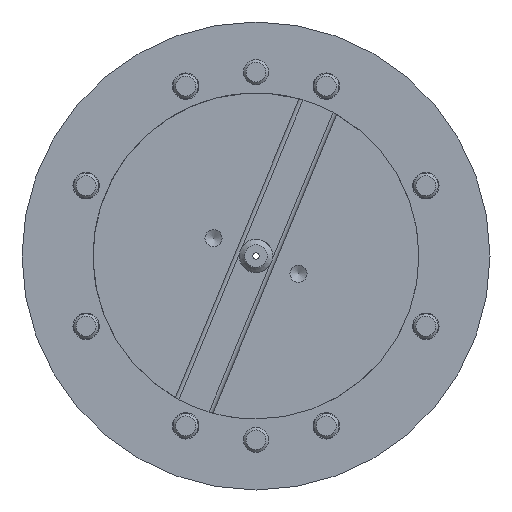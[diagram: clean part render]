
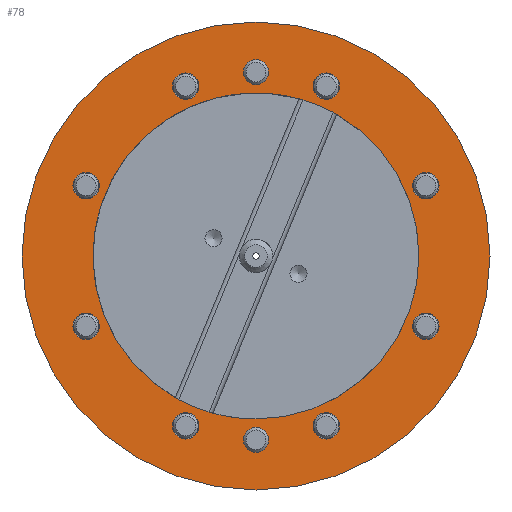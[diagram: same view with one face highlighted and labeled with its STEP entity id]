
A CAD part, front view. The second image highlights one B-rep face of the part: STEP entity #78.
In plain terms, the highlighted planar face has unit normal (0, -1, 0).
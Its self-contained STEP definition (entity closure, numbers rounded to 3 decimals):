
#78 = ADVANCED_FACE( '', ( #264, #265, #266, #267, #268, #269, #270, #271, #272, #273, #274, #275 ), #276, .T. );
#264 = FACE_OUTER_BOUND( '', #740, .T. );
#265 = FACE_BOUND( '', #741, .T. );
#266 = FACE_BOUND( '', #742, .T. );
#267 = FACE_BOUND( '', #743, .T. );
#268 = FACE_BOUND( '', #744, .T. );
#269 = FACE_BOUND( '', #745, .T. );
#270 = FACE_BOUND( '', #746, .T. );
#271 = FACE_BOUND( '', #747, .T. );
#272 = FACE_BOUND( '', #748, .T. );
#273 = FACE_BOUND( '', #749, .T. );
#274 = FACE_BOUND( '', #750, .T. );
#275 = FACE_BOUND( '', #751, .T. );
#276 = PLANE( '', #752 );
#740 = EDGE_LOOP( '', ( #1230 ) );
#741 = EDGE_LOOP( '', ( #1231 ) );
#742 = EDGE_LOOP( '', ( #1232 ) );
#743 = EDGE_LOOP( '', ( #1233 ) );
#744 = EDGE_LOOP( '', ( #1234 ) );
#745 = EDGE_LOOP( '', ( #1235 ) );
#746 = EDGE_LOOP( '', ( #1236 ) );
#747 = EDGE_LOOP( '', ( #1237 ) );
#748 = EDGE_LOOP( '', ( #1238 ) );
#749 = EDGE_LOOP( '', ( #1239 ) );
#750 = EDGE_LOOP( '', ( #1240 ) );
#751 = EDGE_LOOP( '', ( #1241 ) );
#752 = AXIS2_PLACEMENT_3D( '', #1242, #1243, #1244 );
#1230 = ORIENTED_EDGE( '', *, *, #2363, .T. );
#1231 = ORIENTED_EDGE( '', *, *, #2364, .F. );
#1232 = ORIENTED_EDGE( '', *, *, #2365, .F. );
#1233 = ORIENTED_EDGE( '', *, *, #2366, .F. );
#1234 = ORIENTED_EDGE( '', *, *, #2367, .F. );
#1235 = ORIENTED_EDGE( '', *, *, #2368, .F. );
#1236 = ORIENTED_EDGE( '', *, *, #2369, .F. );
#1237 = ORIENTED_EDGE( '', *, *, #2370, .F. );
#1238 = ORIENTED_EDGE( '', *, *, #2371, .F. );
#1239 = ORIENTED_EDGE( '', *, *, #2372, .T. );
#1240 = ORIENTED_EDGE( '', *, *, #2373, .T. );
#1241 = ORIENTED_EDGE( '', *, *, #2374, .F. );
#1242 = CARTESIAN_POINT( '', ( 39., -10., 0. ) );
#1243 = DIRECTION( '', ( 0., -1., 0. ) );
#1244 = DIRECTION( '', ( 0., 0., -1. ) );
#2363 = EDGE_CURVE( '', #2676, #2676, #2677, .T. );
#2364 = EDGE_CURVE( '', #2678, #2678, #2679, .T. );
#2365 = EDGE_CURVE( '', #2680, #2680, #2681, .T. );
#2366 = EDGE_CURVE( '', #2682, #2682, #2683, .T. );
#2367 = EDGE_CURVE( '', #2684, #2684, #2685, .T. );
#2368 = EDGE_CURVE( '', #2686, #2686, #2687, .T. );
#2369 = EDGE_CURVE( '', #2688, #2688, #2689, .T. );
#2370 = EDGE_CURVE( '', #2690, #2690, #2691, .T. );
#2371 = EDGE_CURVE( '', #2692, #2692, #2693, .T. );
#2372 = EDGE_CURVE( '', #2694, #2694, #2695, .F. );
#2373 = EDGE_CURVE( '', #2696, #2696, #2697, .F. );
#2374 = EDGE_CURVE( '', #2698, #2698, #2699, .T. );
#2676 = VERTEX_POINT( '', #3235 );
#2677 = CIRCLE( '', #3236, 56. );
#2678 = VERTEX_POINT( '', #3237 );
#2679 = CIRCLE( '', #3238, 3.15 );
#2680 = VERTEX_POINT( '', #3239 );
#2681 = CIRCLE( '', #3240, 3.15 );
#2682 = VERTEX_POINT( '', #3241 );
#2683 = CIRCLE( '', #3242, 3.15 );
#2684 = VERTEX_POINT( '', #3243 );
#2685 = CIRCLE( '', #3244, 3.15 );
#2686 = VERTEX_POINT( '', #3245 );
#2687 = CIRCLE( '', #3246, 3.15 );
#2688 = VERTEX_POINT( '', #3247 );
#2689 = CIRCLE( '', #3248, 3.15 );
#2690 = VERTEX_POINT( '', #3249 );
#2691 = CIRCLE( '', #3250, 3.15 );
#2692 = VERTEX_POINT( '', #3251 );
#2693 = CIRCLE( '', #3252, 3.15 );
#2694 = VERTEX_POINT( '', #3253 );
#2695 = CIRCLE( '', #3254, 3. );
#2696 = VERTEX_POINT( '', #3255 );
#2697 = CIRCLE( '', #3256, 3. );
#2698 = VERTEX_POINT( '', #3257 );
#2699 = CIRCLE( '', #3258, 39. );
#3235 = CARTESIAN_POINT( '', ( 0., -10., -56. ) );
#3236 = AXIS2_PLACEMENT_3D( '', #3958, #3959, #3960 );
#3237 = CARTESIAN_POINT( '', ( -16.838, -10., -43.801 ) );
#3238 = AXIS2_PLACEMENT_3D( '', #3961, #3962, #3963 );
#3239 = CARTESIAN_POINT( '', ( 40.651, -10., -19.988 ) );
#3240 = AXIS2_PLACEMENT_3D( '', #3964, #3965, #3966 );
#3241 = CARTESIAN_POINT( '', ( -16.838, -10., 37.501 ) );
#3242 = AXIS2_PLACEMENT_3D( '', #3967, #3968, #3969 );
#3243 = CARTESIAN_POINT( '', ( 16.838, -10., 37.501 ) );
#3244 = AXIS2_PLACEMENT_3D( '', #3970, #3971, #3972 );
#3245 = CARTESIAN_POINT( '', ( -40.651, -10., 13.688 ) );
#3246 = AXIS2_PLACEMENT_3D( '', #3973, #3974, #3975 );
#3247 = CARTESIAN_POINT( '', ( -40.651, -10., -19.988 ) );
#3248 = AXIS2_PLACEMENT_3D( '', #3976, #3977, #3978 );
#3249 = CARTESIAN_POINT( '', ( 40.651, -10., 13.688 ) );
#3250 = AXIS2_PLACEMENT_3D( '', #3979, #3980, #3981 );
#3251 = CARTESIAN_POINT( '', ( 16.838, -10., -43.801 ) );
#3252 = AXIS2_PLACEMENT_3D( '', #3982, #3983, #3984 );
#3253 = CARTESIAN_POINT( '', ( 0., -10., 41. ) );
#3254 = AXIS2_PLACEMENT_3D( '', #3985, #3986, #3987 );
#3255 = CARTESIAN_POINT( '', ( 0., -10., -47. ) );
#3256 = AXIS2_PLACEMENT_3D( '', #3988, #3989, #3990 );
#3257 = CARTESIAN_POINT( '', ( 0., -10., -39. ) );
#3258 = AXIS2_PLACEMENT_3D( '', #3991, #3992, #3993 );
#3958 = CARTESIAN_POINT( '', ( 0., -10., 0. ) );
#3959 = DIRECTION( '', ( 0., -1., 0. ) );
#3960 = DIRECTION( '', ( 0., 0., -1. ) );
#3961 = CARTESIAN_POINT( '', ( -16.838, -10., -40.651 ) );
#3962 = DIRECTION( '', ( 0., -1., 0. ) );
#3963 = DIRECTION( '', ( 0., 0., -1. ) );
#3964 = CARTESIAN_POINT( '', ( 40.651, -10., -16.838 ) );
#3965 = DIRECTION( '', ( 0., -1., 0. ) );
#3966 = DIRECTION( '', ( 0., 0., -1. ) );
#3967 = CARTESIAN_POINT( '', ( -16.838, -10., 40.651 ) );
#3968 = DIRECTION( '', ( 0., -1., 0. ) );
#3969 = DIRECTION( '', ( 0., 0., -1. ) );
#3970 = CARTESIAN_POINT( '', ( 16.838, -10., 40.651 ) );
#3971 = DIRECTION( '', ( 0., -1., 0. ) );
#3972 = DIRECTION( '', ( 0., 0., -1. ) );
#3973 = CARTESIAN_POINT( '', ( -40.651, -10., 16.838 ) );
#3974 = DIRECTION( '', ( 0., -1., 0. ) );
#3975 = DIRECTION( '', ( 0., 0., -1. ) );
#3976 = CARTESIAN_POINT( '', ( -40.651, -10., -16.838 ) );
#3977 = DIRECTION( '', ( 0., -1., 0. ) );
#3978 = DIRECTION( '', ( 0., 0., -1. ) );
#3979 = CARTESIAN_POINT( '', ( 40.651, -10., 16.838 ) );
#3980 = DIRECTION( '', ( 0., -1., 0. ) );
#3981 = DIRECTION( '', ( 0., 0., -1. ) );
#3982 = CARTESIAN_POINT( '', ( 16.838, -10., -40.651 ) );
#3983 = DIRECTION( '', ( 0., -1., 0. ) );
#3984 = DIRECTION( '', ( 0., 0., -1. ) );
#3985 = CARTESIAN_POINT( '', ( 0., -10., 44. ) );
#3986 = DIRECTION( '', ( 0., -1., 0. ) );
#3987 = DIRECTION( '', ( 0., 0., -1. ) );
#3988 = CARTESIAN_POINT( '', ( 0., -10., -44. ) );
#3989 = DIRECTION( '', ( 0., -1., 0. ) );
#3990 = DIRECTION( '', ( 0., 0., -1. ) );
#3991 = CARTESIAN_POINT( '', ( 0., -10., 0. ) );
#3992 = DIRECTION( '', ( 0., -1., 0. ) );
#3993 = DIRECTION( '', ( 0., 0., -1. ) );
